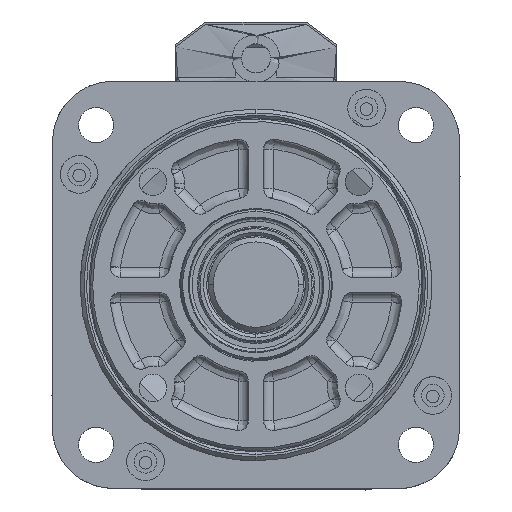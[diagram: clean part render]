
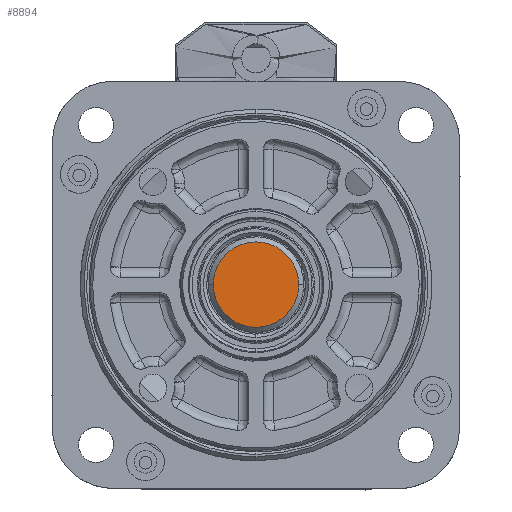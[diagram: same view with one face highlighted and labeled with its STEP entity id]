
A CAD part, top view. The second image highlights one B-rep face of the part: STEP entity #8894.
In plain terms, the highlighted free-form (B-spline) face has degree [1, 1] with [2, 2] control points.
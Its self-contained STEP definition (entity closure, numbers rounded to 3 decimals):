
#68 = CARTESIAN_POINT ( 'NONE',  ( 18.108, 115.52, 232.727 ) ) ;
#94 = CARTESIAN_POINT ( 'NONE',  ( 27.285, 104.337, 232.727 ) ) ;
#2127 = CARTESIAN_POINT ( 'NONE',  ( 11.58, 103.306, 232.727 ) ) ;
#2177 = VERTEX_POINT ( 'NONE', #6260 ) ;
#2215 = CARTESIAN_POINT ( 'NONE',  ( 25.976, 112.26, 232.727 ) ) ;
#2236 = CARTESIAN_POINT ( 'NONE',  ( 20.33, 98.628, 232.727 ) ) ;
#2318 = CARTESIAN_POINT ( 'NONE',  ( 16.482, 115.141, 232.727 ) ) ;
#2334 = CARTESIAN_POINT ( 'NONE',  ( 27.664, 105.963, 232.727 ) ) ;
#3521 = ORIENTED_EDGE ( 'NONE', *, *, #28411, .T. ) ;
#3630 = CARTESIAN_POINT ( 'NONE',  ( 11.841, 111.332, 232.727 ) ) ;
#4393 = CARTESIAN_POINT ( 'NONE',  ( 12.461, 101.888, 232.727 ) ) ;
#4462 = CARTESIAN_POINT ( 'NONE',  ( 24.835, 113.479, 232.727 ) ) ;
#4483 = CARTESIAN_POINT ( 'NONE',  ( 21.956, 99.007, 232.727 ) ) ;
#4510 = B_SPLINE_CURVE_WITH_KNOTS ( 'NONE', 3,
 ( #15586, #8907, #11163, #27045, #13428, #29315, #15686, #2215, #17987, #4462, #20300, #6740, #22566, #9002, #24866, #11247, #27143, #13524, #68, #15772, #2318, #18092, #4562, #20399, #6844, #22663, #17138, #3630, #19428, #5893, #21717, #8155, #23985, #10406 ),
 .UNSPECIFIED., .F., .F.,
 ( 4, 2, 2, 2, 2, 2, 2, 2, 2, 2, 2, 2, 2, 2, 2, 2, 4 ),
 ( 0., 0.196, 0.393, 0.589, 0.785, 0.982, 1.178, 1.374, 1.571, 1.767, 1.963, 2.16, 2.356, 2.553, 2.749, 2.945, 3.142 ),
 .UNSPECIFIED. ) ;
#4562 = CARTESIAN_POINT ( 'NONE',  ( 14.961, 114.452, 232.727 ) ) ;
#4588 = CARTESIAN_POINT ( 'NONE',  ( 27.719, 107.074, 232.727 ) ) ;
#5893 = CARTESIAN_POINT ( 'NONE',  ( 11.152, 109.811, 232.727 ) ) ;
#6260 = CARTESIAN_POINT ( 'NONE',  ( 10.719, 107.074, 232.727 ) ) ;
#6407 = FACE_OUTER_BOUND ( 'NONE', #21706, .T. ) ;
#6653 = CARTESIAN_POINT ( 'NONE',  ( 13.603, 100.669, 232.727 ) ) ;
#6740 = CARTESIAN_POINT ( 'NONE',  ( 23.477, 114.452, 232.727 ) ) ;
#6764 = CARTESIAN_POINT ( 'NONE',  ( 23.477, 99.696, 232.727 ) ) ;
#6844 = CARTESIAN_POINT ( 'NONE',  ( 13.603, 113.479, 232.727 ) ) ;
#8155 = CARTESIAN_POINT ( 'NONE',  ( 10.773, 108.185, 232.727 ) ) ;
#8202 = EDGE_CURVE ( 'NONE', #13429, #2177, #4510, .T. ) ;
#8894 = ADVANCED_FACE ( 'NONE', ( #6407 ), #15722, .F. ) ;
#8907 = CARTESIAN_POINT ( 'NONE',  ( 27.719, 107.632, 232.727 ) ) ;
#8928 = CARTESIAN_POINT ( 'NONE',  ( 14.961, 99.696, 232.727 ) ) ;
#9002 = CARTESIAN_POINT ( 'NONE',  ( 21.956, 115.141, 232.727 ) ) ;
#9021 = CARTESIAN_POINT ( 'NONE',  ( 24.835, 100.669, 232.727 ) ) ;
#10406 = CARTESIAN_POINT ( 'NONE',  ( 10.719, 107.074, 232.727 ) ) ;
#10990 = CARTESIAN_POINT ( 'NONE',  ( 10.719, 106.516, 232.727 ) ) ;
#11163 = CARTESIAN_POINT ( 'NONE',  ( 27.664, 108.185, 232.727 ) ) ;
#11183 = CARTESIAN_POINT ( 'NONE',  ( 16.482, 99.007, 232.727 ) ) ;
#11247 = CARTESIAN_POINT ( 'NONE',  ( 20.33, 115.52, 232.727 ) ) ;
#11271 = CARTESIAN_POINT ( 'NONE',  ( 25.976, 101.888, 232.727 ) ) ;
#13075 = CARTESIAN_POINT ( 'NONE',  ( 10.617, 98.472, 232.727 ) ) ;
#13340 = CARTESIAN_POINT ( 'NONE',  ( 10.773, 105.963, 232.727 ) ) ;
#13428 = CARTESIAN_POINT ( 'NONE',  ( 27.285, 109.811, 232.727 ) ) ;
#13429 = VERTEX_POINT ( 'NONE', #19811 ) ;
#13451 = CARTESIAN_POINT ( 'NONE',  ( 18.108, 98.628, 232.727 ) ) ;
#13524 = CARTESIAN_POINT ( 'NONE',  ( 18.661, 115.574, 232.727 ) ) ;
#13547 = CARTESIAN_POINT ( 'NONE',  ( 26.858, 103.306, 232.727 ) ) ;
#15239 = CARTESIAN_POINT ( 'NONE',  ( 27.821, 115.676, 232.727 ) ) ;
#15586 = CARTESIAN_POINT ( 'NONE',  ( 27.719, 107.074, 232.727 ) ) ;
#15603 = CARTESIAN_POINT ( 'NONE',  ( 11.152, 104.337, 232.727 ) ) ;
#15686 = CARTESIAN_POINT ( 'NONE',  ( 26.596, 111.332, 232.727 ) ) ;
#15704 = CARTESIAN_POINT ( 'NONE',  ( 19.777, 98.574, 232.727 ) ) ;
#15722 = B_SPLINE_SURFACE_WITH_KNOTS ( 'NONE', 1, 1, ( 
 ( #24398, #15239 ),
 ( #13075, #28959 ) ),
 .UNSPECIFIED., .F., .F., .F.,
 ( 2, 2 ),
 ( 2, 2 ),
 ( 0., 1. ),
 ( 0., 1. ),
 .UNSPECIFIED. ) ;
#15772 = CARTESIAN_POINT ( 'NONE',  ( 17.013, 115.302, 232.727 ) ) ;
#15790 = CARTESIAN_POINT ( 'NONE',  ( 27.447, 104.868, 232.727 ) ) ;
#17138 = CARTESIAN_POINT ( 'NONE',  ( 12.461, 112.26, 232.727 ) ) ;
#17912 = CARTESIAN_POINT ( 'NONE',  ( 11.841, 102.816, 232.727 ) ) ;
#17987 = CARTESIAN_POINT ( 'NONE',  ( 25.624, 112.69, 232.727 ) ) ;
#18010 = CARTESIAN_POINT ( 'NONE',  ( 21.425, 98.846, 232.727 ) ) ;
#18092 = CARTESIAN_POINT ( 'NONE',  ( 15.45, 114.713, 232.727 ) ) ;
#18108 = CARTESIAN_POINT ( 'NONE',  ( 27.719, 106.516, 232.727 ) ) ;
#19428 = CARTESIAN_POINT ( 'NONE',  ( 11.58, 110.842, 232.727 ) ) ;
#19811 = CARTESIAN_POINT ( 'NONE',  ( 27.719, 107.074, 232.727 ) ) ;
#20222 = CARTESIAN_POINT ( 'NONE',  ( 12.814, 101.458, 232.727 ) ) ;
#20300 = CARTESIAN_POINT ( 'NONE',  ( 24.405, 113.831, 232.727 ) ) ;
#20325 = CARTESIAN_POINT ( 'NONE',  ( 22.987, 99.435, 232.727 ) ) ;
#20399 = CARTESIAN_POINT ( 'NONE',  ( 14.032, 113.831, 232.727 ) ) ;
#21706 = EDGE_LOOP ( 'NONE', ( #25497, #3521 ) ) ;
#21717 = CARTESIAN_POINT ( 'NONE',  ( 10.991, 109.28, 232.727 ) ) ;
#22488 = CARTESIAN_POINT ( 'NONE',  ( 14.032, 100.317, 232.727 ) ) ;
#22566 = CARTESIAN_POINT ( 'NONE',  ( 22.987, 114.713, 232.727 ) ) ;
#22583 = CARTESIAN_POINT ( 'NONE',  ( 24.405, 100.317, 232.727 ) ) ;
#22663 = CARTESIAN_POINT ( 'NONE',  ( 12.814, 112.69, 232.727 ) ) ;
#23985 = CARTESIAN_POINT ( 'NONE',  ( 10.719, 107.632, 232.727 ) ) ;
#24398 = CARTESIAN_POINT ( 'NONE',  ( 27.821, 98.472, 232.727 ) ) ;
#24681 = CARTESIAN_POINT ( 'NONE',  ( 10.719, 107.074, 232.727 ) ) ;
#24774 = CARTESIAN_POINT ( 'NONE',  ( 15.45, 99.435, 232.727 ) ) ;
#24866 = CARTESIAN_POINT ( 'NONE',  ( 21.425, 115.302, 232.727 ) ) ;
#24887 = CARTESIAN_POINT ( 'NONE',  ( 25.624, 101.458, 232.727 ) ) ;
#25439 = B_SPLINE_CURVE_WITH_KNOTS ( 'NONE', 3,
 ( #24681, #10990, #13340, #29242, #15603, #2127, #17912, #4393, #20222, #6653, #22488, #8928, #24774, #11183, #27067, #13451, #29331, #15704, #2236, #18010, #4483, #20325, #6764, #22583, #9021, #24887, #11271, #27165, #13547, #94, #15790, #2334, #18108, #4588 ),
 .UNSPECIFIED., .F., .F.,
 ( 4, 2, 2, 2, 2, 2, 2, 2, 2, 2, 2, 2, 2, 2, 2, 2, 4 ),
 ( 0., 0.196, 0.393, 0.589, 0.785, 0.982, 1.178, 1.374, 1.571, 1.767, 1.963, 2.16, 2.356, 2.553, 2.749, 2.945, 3.142 ),
 .UNSPECIFIED. ) ;
#25497 = ORIENTED_EDGE ( 'NONE', *, *, #8202, .T. ) ;
#27045 = CARTESIAN_POINT ( 'NONE',  ( 27.447, 109.28, 232.727 ) ) ;
#27067 = CARTESIAN_POINT ( 'NONE',  ( 17.013, 98.846, 232.727 ) ) ;
#27143 = CARTESIAN_POINT ( 'NONE',  ( 19.777, 115.574, 232.727 ) ) ;
#27165 = CARTESIAN_POINT ( 'NONE',  ( 26.596, 102.816, 232.727 ) ) ;
#28411 = EDGE_CURVE ( 'NONE', #2177, #13429, #25439, .T. ) ;
#28959 = CARTESIAN_POINT ( 'NONE',  ( 10.617, 115.676, 232.727 ) ) ;
#29242 = CARTESIAN_POINT ( 'NONE',  ( 10.991, 104.868, 232.727 ) ) ;
#29315 = CARTESIAN_POINT ( 'NONE',  ( 26.858, 110.842, 232.727 ) ) ;
#29331 = CARTESIAN_POINT ( 'NONE',  ( 18.661, 98.574, 232.727 ) ) ;
